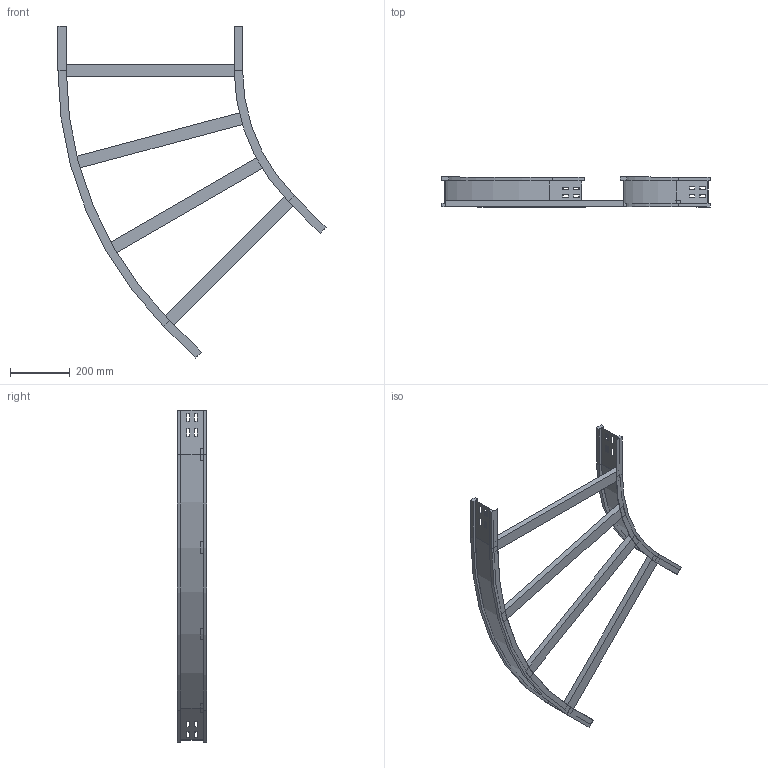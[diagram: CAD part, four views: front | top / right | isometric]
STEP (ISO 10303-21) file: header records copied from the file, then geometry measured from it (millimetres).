
FILE_DESCRIPTION (( 'STEP AP214' ), '1' );
FILE_NAME ('11S6D600.step', '2025-02-21T16:03:52', ( '' ), ( '' ), 'SwSTEP 2.0', 'SolidWorks 2023', '' );
FILE_SCHEMA (( 'AUTOMOTIVE_DESIGN' ));
Length unit declared in the file: millimetre
Products named in the file (4): LONGH.INTERNO 45°_H100_R600; LONGH.ESTERNO 45°_H100_R600+600; 11S6D600; TRAVERSINO_600
Assembly tree (6 placements, depth 2):
  11S6D600
    LONGH.INTERNO 45°_H100_R600
    LONGH.ESTERNO 45°_H100_R600+600
    TRAVERSINO_600  x4
Bounding box: 897.17 x 100 x 1110.96 mm (x, y, z)
Volume: 2996653.3 mm3; surface area: 890054.9 mm2
Topology: 6 solids, 6 shells, 164 faces, 408 edges, 256 vertices
Faces by surface type: plane 152, cylinder 12
Entity records: 4485 total; most frequent: CARTESIAN_POINT 759, ORIENTED_EDGE 744, DIRECTION 706, EDGE_CURVE 372, LINE 348, VECTOR 348, VERTEX_POINT 232, AXIS2_PLACEMENT_3D 179
